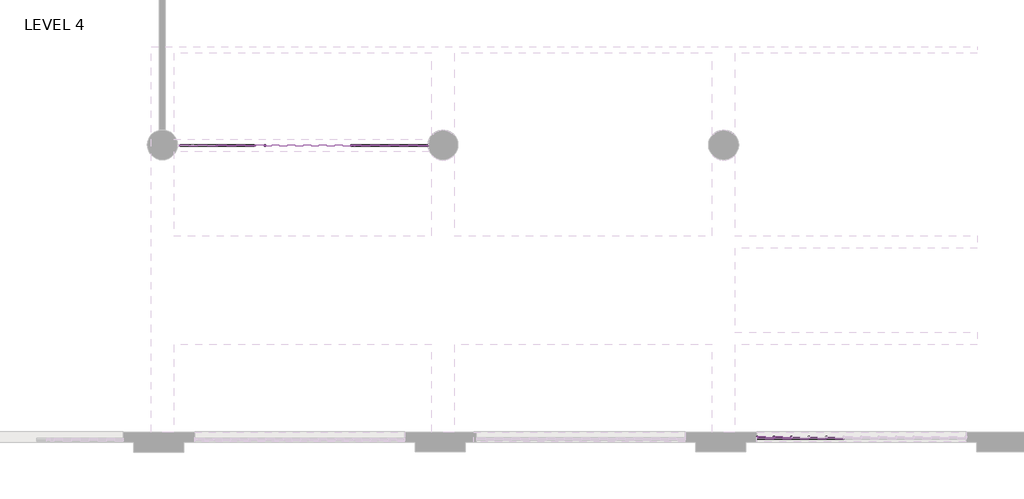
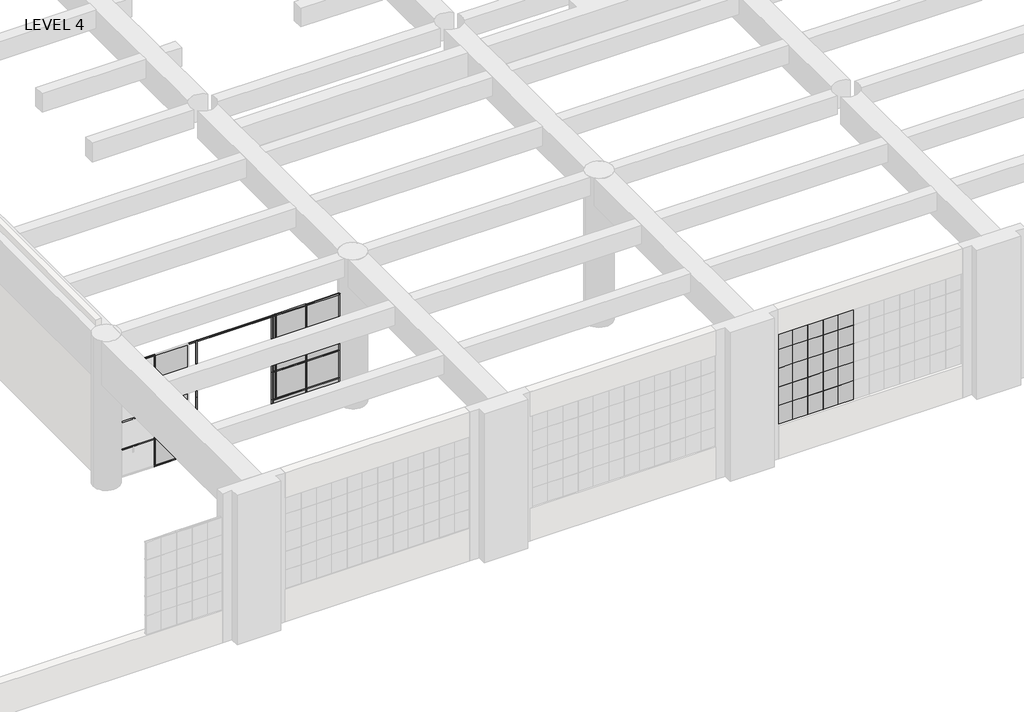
# One storey, part 5 of 26: 84 members, 37 plates.
"""IFC4 building model written with IfcOpenShell, lengths in millimetres."""

from ifc_helpers import new_model, si_unit, origin, place, context, project, spatial, transform, mapped, element, save
from components import member_038dcf1c, member_0e6c94ff, member_d9fec558, member_3d4b608b, member_3c10d71f, member_653bb31e, member_9ec6e97d, member_6e26db71, member_aef483ff, member_88f59781, member_92de3609, member_bade2307, member_118f13bb, member_0a6cf826, member_f7ae4650, member_2f6810a2, member_10d6b71f, member_9f9ec4ec, member_f0929a5d, member_eec7f54c, member_12606fcf, member_898f03bf, member_8f214088, system_panel_glazed_ab35d819, system_panel_glazed_418eb6cd, plate_ccda104d, plate_41dfdbf4, plate_6a2117e0, plate_a1edb61d, plate_c77cbb9d, plate_16e578ed, plate_b3bfc836, plate_fb1597b3, plate_832d6fea, plate_1455caec, plate_0d4e65cb, plate_13b08ee7

model = new_model("IFC4")

# Units and contexts
model_context = context("Model", 3, world=origin())
ifc_project = project(units=[si_unit("LENGTHUNIT", "METRE", prefix="MILLI")], contexts=[model_context])

# Site, building, storey
site = spatial("IfcSite", under=ifc_project)
building = spatial("IfcBuilding", under=site)
storey = spatial("IfcBuildingStorey", under=building, Name="LEVEL 4", Elevation=0.0)

# Members
placement = place(None, origin())
member_shape = member_038dcf1c(model_context)
element("IfcMember", 1, ObjectType="Circular Mullion : 1 1/4\" Square", at=placement, inside=storey, context=model_context, shape_type="MappedRepresentation", body=[
    mapped(member_shape, transform((-30930.5419526, 87323.1590237, 2628.9), x_axis=(-1.0, 0.0, 0.0), y_axis=(0.0, -1.0, 0.0), z_axis=(0.0, 0.0, 1.0))),
])
element("IfcMember", 2, ObjectType="Circular Mullion : 1 1/4\" Square", at=placement, inside=storey, context=model_context, shape_type="MappedRepresentation", body=[
    mapped(member_shape, transform((-30930.5419526, 87323.1590237, 2171.7), x_axis=(-1.0, 0.0, 0.0), y_axis=(0.0, -1.0, 0.0), z_axis=(0.0, 0.0, 1.0))),
])
element("IfcMember", 3, ObjectType="Circular Mullion : 1 1/4\" Square", at=placement, inside=storey, context=model_context, shape_type="MappedRepresentation", body=[
    mapped(member_shape, transform((-30930.5419526, 87323.1590237, 1714.5), x_axis=(-1.0, 0.0, 0.0), y_axis=(0.0, -1.0, 0.0), z_axis=(0.0, 0.0, 1.0))),
])
member_2_shape = member_0e6c94ff(model_context)
element("IfcMember", 4, ObjectType="Circular Mullion : 1 1/4\" Square", at=placement, inside=storey, context=model_context, shape_type="MappedRepresentation", body=[
    mapped(member_2_shape, transform((-30930.5419526, 87323.1590237, 3060.7), x_axis=(-1.0, 0.0, 0.0), y_axis=(0.0, -1.0, 0.0), z_axis=(0.0, 0.0, 1.0))),
])
member_3_shape = member_d9fec558(model_context)
element("IfcMember", 5, ObjectType="Circular Mullion : 1 1/4\" Square", at=placement, inside=storey, context=model_context, shape_type="MappedRepresentation", body=[
    mapped(member_3_shape, transform((-30574.9419523, 87323.1590237, 2628.9), x_axis=(1.0, 0.0, 0.0), y_axis=(0.0, -1.0, 0.0), z_axis=(0.0, 0.0, -1.0))),
])
element("IfcMember", 6, ObjectType="Circular Mullion : 1 1/4\" Square", at=placement, inside=storey, context=model_context, shape_type="MappedRepresentation", body=[
    mapped(member_3_shape, transform((-30219.3419523, 87323.1590237, 2628.9), x_axis=(1.0, 0.0, 0.0), y_axis=(0.0, -1.0, 0.0), z_axis=(0.0, 0.0, -1.0))),
])
element("IfcMember", 7, ObjectType="Circular Mullion : 1 1/4\" Square", at=placement, inside=storey, context=model_context, shape_type="MappedRepresentation", body=[
    mapped(member_3_shape, transform((-29863.7419523, 87323.1590237, 2628.9), x_axis=(1.0, 0.0, 0.0), y_axis=(0.0, -1.0, 0.0), z_axis=(0.0, 0.0, -1.0))),
])
element("IfcMember", 8, ObjectType="Circular Mullion : 1 1/4\" Square", at=placement, inside=storey, context=model_context, shape_type="MappedRepresentation", body=[
    mapped(member_3_shape, transform((-29508.1419523, 87323.1590237, 2628.9), x_axis=(1.0, 0.0, 0.0), y_axis=(0.0, -1.0, 0.0), z_axis=(0.0, 0.0, -1.0))),
])
element("IfcMember", 9, ObjectType="Circular Mullion : 1 1/4\" Square", at=placement, inside=storey, context=model_context, shape_type="MappedRepresentation", body=[
    mapped(member_3_shape, transform((-29152.5419523, 87323.1590237, 2628.9), x_axis=(1.0, 0.0, 0.0), y_axis=(0.0, -1.0, 0.0), z_axis=(0.0, 0.0, -1.0))),
])
member_4_shape = member_3d4b608b(model_context)
element("IfcMember", 10, ObjectType="Circular Mullion : 1 1/4\" Square", at=placement, inside=storey, context=model_context, shape_type="MappedRepresentation", body=[
    mapped(member_4_shape, transform((-30574.9419523, 87323.1590237, 2171.7), x_axis=(1.0, 0.0, 0.0), y_axis=(0.0, -1.0, 0.0), z_axis=(0.0, 0.0, -1.0))),
])
element("IfcMember", 11, ObjectType="Circular Mullion : 1 1/4\" Square", at=placement, inside=storey, context=model_context, shape_type="MappedRepresentation", body=[
    mapped(member_4_shape, transform((-30574.9419523, 87323.1590237, 1714.5), x_axis=(1.0, 0.0, 0.0), y_axis=(0.0, -1.0, 0.0), z_axis=(0.0, 0.0, -1.0))),
])
element("IfcMember", 12, ObjectType="Circular Mullion : 1 1/4\" Square", at=placement, inside=storey, context=model_context, shape_type="MappedRepresentation", body=[
    mapped(member_4_shape, transform((-30574.9419523, 87323.1590237, 1257.3), x_axis=(1.0, 0.0, 0.0), y_axis=(0.0, -1.0, 0.0), z_axis=(0.0, 0.0, -1.0))),
])
element("IfcMember", 13, ObjectType="Circular Mullion : 1 1/4\" Square", at=placement, inside=storey, context=model_context, shape_type="MappedRepresentation", body=[
    mapped(member_4_shape, transform((-30219.3419523, 87323.1590237, 2171.7), x_axis=(1.0, 0.0, 0.0), y_axis=(0.0, -1.0, 0.0), z_axis=(0.0, 0.0, -1.0))),
])
element("IfcMember", 14, ObjectType="Circular Mullion : 1 1/4\" Square", at=placement, inside=storey, context=model_context, shape_type="MappedRepresentation", body=[
    mapped(member_4_shape, transform((-30219.3419523, 87323.1590237, 1714.5), x_axis=(1.0, 0.0, 0.0), y_axis=(0.0, -1.0, 0.0), z_axis=(0.0, 0.0, -1.0))),
])
element("IfcMember", 15, ObjectType="Circular Mullion : 1 1/4\" Square", at=placement, inside=storey, context=model_context, shape_type="MappedRepresentation", body=[
    mapped(member_4_shape, transform((-30219.3419523, 87323.1590237, 1257.3), x_axis=(1.0, 0.0, 0.0), y_axis=(0.0, -1.0, 0.0), z_axis=(0.0, 0.0, -1.0))),
])
element("IfcMember", 16, ObjectType="Circular Mullion : 1 1/4\" Square", at=placement, inside=storey, context=model_context, shape_type="MappedRepresentation", body=[
    mapped(member_4_shape, transform((-29863.7419523, 87323.1590237, 2171.7), x_axis=(1.0, 0.0, 0.0), y_axis=(0.0, -1.0, 0.0), z_axis=(0.0, 0.0, -1.0))),
])
element("IfcMember", 17, ObjectType="Circular Mullion : 1 1/4\" Square", at=placement, inside=storey, context=model_context, shape_type="MappedRepresentation", body=[
    mapped(member_4_shape, transform((-29863.7419523, 87323.1590237, 1714.5), x_axis=(1.0, 0.0, 0.0), y_axis=(0.0, -1.0, 0.0), z_axis=(0.0, 0.0, -1.0))),
])
element("IfcMember", 18, ObjectType="Circular Mullion : 1 1/4\" Square", at=placement, inside=storey, context=model_context, shape_type="MappedRepresentation", body=[
    mapped(member_4_shape, transform((-29863.7419523, 87323.1590237, 1257.3), x_axis=(1.0, 0.0, 0.0), y_axis=(0.0, -1.0, 0.0), z_axis=(0.0, 0.0, -1.0))),
])
element("IfcMember", 19, ObjectType="Circular Mullion : 1 1/4\" Square", at=placement, inside=storey, context=model_context, shape_type="MappedRepresentation", body=[
    mapped(member_4_shape, transform((-29508.1419523, 87323.1590237, 2171.7), x_axis=(1.0, 0.0, 0.0), y_axis=(0.0, -1.0, 0.0), z_axis=(0.0, 0.0, -1.0))),
])
element("IfcMember", 20, ObjectType="Circular Mullion : 1 1/4\" Square", at=placement, inside=storey, context=model_context, shape_type="MappedRepresentation", body=[
    mapped(member_4_shape, transform((-29508.1419523, 87323.1590237, 1714.5), x_axis=(1.0, 0.0, 0.0), y_axis=(0.0, -1.0, 0.0), z_axis=(0.0, 0.0, -1.0))),
])
element("IfcMember", 21, ObjectType="Circular Mullion : 1 1/4\" Square", at=placement, inside=storey, context=model_context, shape_type="MappedRepresentation", body=[
    mapped(member_4_shape, transform((-29508.1419523, 87323.1590237, 1257.3), x_axis=(1.0, 0.0, 0.0), y_axis=(0.0, -1.0, 0.0), z_axis=(0.0, 0.0, -1.0))),
])
element("IfcMember", 22, ObjectType="Circular Mullion : 1 1/4\" Square", at=placement, inside=storey, context=model_context, shape_type="MappedRepresentation", body=[
    mapped(member_4_shape, transform((-29152.5419523, 87323.1590237, 2171.7), x_axis=(1.0, 0.0, 0.0), y_axis=(0.0, -1.0, 0.0), z_axis=(0.0, 0.0, -1.0))),
])
member_5_shape = member_3c10d71f(model_context)
element("IfcMember", 23, ObjectType="Circular Mullion : 1 1/4\" Square", at=placement, inside=storey, context=model_context, shape_type="MappedRepresentation", body=[
    mapped(member_5_shape, transform((-29876.4419523, 87323.1590237, 3060.7), x_axis=(0.0, 0.0, 1.0), y_axis=(0.0, -1.0, 0.0), z_axis=(1.0, 0.0, 0.0))),
])
element("IfcMember", 24, ObjectType="Circular Mullion : 1 1/4\" Square", at=placement, inside=storey, context=model_context, shape_type="MappedRepresentation", body=[
    mapped(member_5_shape, transform((-30232.0419523, 87323.1590237, 3060.7), x_axis=(0.0, 0.0, 1.0), y_axis=(0.0, -1.0, 0.0), z_axis=(1.0, 0.0, 0.0))),
])
element("IfcMember", 25, ObjectType="Circular Mullion : 1 1/4\" Square", at=placement, inside=storey, context=model_context, shape_type="MappedRepresentation", body=[
    mapped(member_5_shape, transform((-29520.8419523, 87323.1590237, 3060.7), x_axis=(0.0, 0.0, 1.0), y_axis=(0.0, -1.0, 0.0), z_axis=(1.0, 0.0, 0.0))),
])
element("IfcMember", 26, ObjectType="Circular Mullion : 1 1/4\" Square", at=placement, inside=storey, context=model_context, shape_type="MappedRepresentation", body=[
    mapped(member_5_shape, transform((-29165.2419523, 87323.1590237, 3060.7), x_axis=(0.0, 0.0, 1.0), y_axis=(0.0, -1.0, 0.0), z_axis=(1.0, 0.0, 0.0))),
])
member_6_shape = member_653bb31e(model_context)
element("IfcMember", 27, ObjectType="Circular Mullion : 1 1/4\" Square", at=placement, inside=storey, context=model_context, shape_type="MappedRepresentation", body=[
    mapped(member_6_shape, transform((-30232.0419523, 87323.1590237, 2628.9), x_axis=(0.0, 0.0, 1.0), y_axis=(0.0, -1.0, 0.0), z_axis=(1.0, 0.0, 0.0))),
])
element("IfcMember", 28, ObjectType="Circular Mullion : 1 1/4\" Square", at=placement, inside=storey, context=model_context, shape_type="MappedRepresentation", body=[
    mapped(member_6_shape, transform((-30232.0419523, 87323.1590237, 2171.7), x_axis=(0.0, 0.0, 1.0), y_axis=(0.0, -1.0, 0.0), z_axis=(1.0, 0.0, 0.0))),
])
element("IfcMember", 29, ObjectType="Circular Mullion : 1 1/4\" Square", at=placement, inside=storey, context=model_context, shape_type="MappedRepresentation", body=[
    mapped(member_6_shape, transform((-30232.0419523, 87323.1590237, 1714.5), x_axis=(0.0, 0.0, 1.0), y_axis=(0.0, -1.0, 0.0), z_axis=(1.0, 0.0, 0.0))),
])
element("IfcMember", 30, ObjectType="Circular Mullion : 1 1/4\" Square", at=placement, inside=storey, context=model_context, shape_type="MappedRepresentation", body=[
    mapped(member_6_shape, transform((-30232.0419523, 87323.1590237, 1257.3), x_axis=(0.0, 0.0, 1.0), y_axis=(0.0, -1.0, 0.0), z_axis=(1.0, 0.0, 0.0))),
])
member_7_shape = member_9ec6e97d(model_context)
element("IfcMember", 31, ObjectType="Circular Mullion : 1 1/4\" Square", at=placement, inside=storey, context=model_context, shape_type="MappedRepresentation", body=[
    mapped(member_7_shape, transform((-30587.6419523, 87323.1590237, 3060.7), x_axis=(0.0, 0.0, 1.0), y_axis=(0.0, -1.0, 0.0), z_axis=(1.0, 0.0, 0.0))),
])
member_8_shape = member_6e26db71(model_context)
element("IfcMember", 32, ObjectType="Circular Mullion : 1 1/4\" Square", at=placement, inside=storey, context=model_context, shape_type="MappedRepresentation", body=[
    mapped(member_8_shape, transform((-30587.6419523, 87323.1590237, 2628.9), x_axis=(0.0, 0.0, 1.0), y_axis=(0.0, -1.0, 0.0), z_axis=(1.0, 0.0, 0.0))),
])
element("IfcMember", 33, ObjectType="Circular Mullion : 1 1/4\" Square", at=placement, inside=storey, context=model_context, shape_type="MappedRepresentation", body=[
    mapped(member_8_shape, transform((-30587.6419523, 87323.1590237, 2171.7), x_axis=(0.0, 0.0, 1.0), y_axis=(0.0, -1.0, 0.0), z_axis=(1.0, 0.0, 0.0))),
])
element("IfcMember", 34, ObjectType="Circular Mullion : 1 1/4\" Square", at=placement, inside=storey, context=model_context, shape_type="MappedRepresentation", body=[
    mapped(member_8_shape, transform((-30587.6419523, 87323.1590237, 1714.5), x_axis=(0.0, 0.0, 1.0), y_axis=(0.0, -1.0, 0.0), z_axis=(1.0, 0.0, 0.0))),
])
element("IfcMember", 35, ObjectType="Circular Mullion : 1 1/4\" Square", at=placement, inside=storey, context=model_context, shape_type="MappedRepresentation", body=[
    mapped(member_8_shape, transform((-30587.6419523, 87323.1590237, 1257.3), x_axis=(0.0, 0.0, 1.0), y_axis=(0.0, -1.0, 0.0), z_axis=(1.0, 0.0, 0.0))),
])
member_9_shape = member_aef483ff(model_context)
element("IfcMember", 36, ObjectType="Circular Mullion : 1 1/4\" Square", at=placement, inside=storey, context=model_context, shape_type="MappedRepresentation", body=[
    mapped(member_9_shape, transform((-39111.7307806, 93262.0914396, 2041.3401593), x_axis=(1.0, 0.0, 0.0), y_axis=(0.0, -1.0, 0.0), z_axis=(0.0, 0.0, -1.0))),
])
element("IfcMember", 37, ObjectType="Circular Mullion : 1 1/4\" Square", at=placement, inside=storey, context=model_context, shape_type="MappedRepresentation", body=[
    mapped(member_9_shape, transform((-40940.5061259, 93262.0914396, 2041.3401593), x_axis=(1.0, 0.0, 0.0), y_axis=(0.0, -1.0, 0.0), z_axis=(0.0, 0.0, -1.0))),
])
member_10_shape = member_88f59781(model_context)
element("IfcMember", 38, ObjectType="Circular Mullion : 1 1/4\" Square", at=placement, inside=storey, context=model_context, shape_type="MappedRepresentation", body=[
    mapped(member_10_shape, transform((-37620.2745306, 93262.0914396, 2041.3401593), x_axis=(1.0, 0.0, 0.0), y_axis=(0.0, -1.0, 0.0), z_axis=(0.0, 0.0, -1.0))),
])
member_11_shape = member_92de3609(model_context)
element("IfcMember", 39, ObjectType="Circular Mullion : 1 1/4\" Square", at=placement, inside=storey, context=model_context, shape_type="MappedRepresentation", body=[
    mapped(member_11_shape, transform((-39111.7307806, 93262.0914396, 1354.5108872), x_axis=(1.0, 0.0, 0.0), y_axis=(0.0, -1.0, 0.0), z_axis=(0.0, 0.0, -1.0))),
])
element("IfcMember", 40, ObjectType="Circular Mullion : 1 1/4\" Square", at=placement, inside=storey, context=model_context, shape_type="MappedRepresentation", body=[
    mapped(member_11_shape, transform((-40940.5061259, 93262.0914396, 1354.5108872), x_axis=(1.0, 0.0, 0.0), y_axis=(0.0, -1.0, 0.0), z_axis=(0.0, 0.0, -1.0))),
])
member_12_shape = member_bade2307(model_context)
element("IfcMember", 41, ObjectType="Circular Mullion : 1 1/4\" Square", at=placement, inside=storey, context=model_context, shape_type="MappedRepresentation", body=[
    mapped(member_12_shape, transform((-37620.2745306, 93262.0914396, 1354.5108872), x_axis=(1.0, 0.0, 0.0), y_axis=(0.0, -1.0, 0.0), z_axis=(0.0, 0.0, -1.0))),
])
member_13_shape = member_118f13bb(model_context)
element("IfcMember", 42, ObjectType="Circular Mullion : 1 1/4\" Square", at=placement, inside=storey, context=model_context, shape_type="MappedRepresentation", body=[
    mapped(member_13_shape, transform((-39111.7307806, 93262.0914396, 676.4411435), x_axis=(1.0, 0.0, 0.0), y_axis=(0.0, -1.0, 0.0), z_axis=(0.0, 0.0, -1.0))),
])
element("IfcMember", 43, ObjectType="Circular Mullion : 1 1/4\" Square", at=placement, inside=storey, context=model_context, shape_type="MappedRepresentation", body=[
    mapped(member_13_shape, transform((-40940.5061259, 93262.0914396, 676.4411435), x_axis=(1.0, 0.0, 0.0), y_axis=(0.0, -1.0, 0.0), z_axis=(0.0, 0.0, -1.0))),
])
member_14_shape = member_0a6cf826(model_context)
element("IfcMember", 44, ObjectType="Circular Mullion : 1 1/4\" Square", at=placement, inside=storey, context=model_context, shape_type="MappedRepresentation", body=[
    mapped(member_14_shape, transform((-37620.2745306, 93262.0914396, 676.4411435), x_axis=(1.0, 0.0, 0.0), y_axis=(0.0, -1.0, 0.0), z_axis=(0.0, 0.0, -1.0))),
])
element("IfcMember", 45, ObjectType="Circular Mullion : 1 1/4\" Square", at=placement, inside=storey, context=model_context, shape_type="MappedRepresentation", body=[
    mapped(member_9_shape, transform((-39185.5495306, 93262.0914396, 2041.3401593), x_axis=(1.0, 0.0, 0.0), y_axis=(0.0, -1.0, 0.0), z_axis=(0.0, 0.0, -1.0))),
])
element("IfcMember", 46, ObjectType="Circular Mullion : 1 1/4\" Square", at=placement, inside=storey, context=model_context, shape_type="MappedRepresentation", body=[
    mapped(member_9_shape, transform((-38407.6745306, 93262.0914396, 2041.3401593), x_axis=(1.0, 0.0, 0.0), y_axis=(0.0, -1.0, 0.0), z_axis=(0.0, 0.0, -1.0))),
])
element("IfcMember", 47, ObjectType="Circular Mullion : 1 1/4\" Square", at=placement, inside=storey, context=model_context, shape_type="MappedRepresentation", body=[
    mapped(member_9_shape, transform((-41919.2245306, 93262.0914396, 2041.3401593), x_axis=(1.0, 0.0, 0.0), y_axis=(0.0, -1.0, 0.0), z_axis=(0.0, 0.0, -1.0))),
])
element("IfcMember", 48, ObjectType="Circular Mullion : 1 1/4\" Square", at=placement, inside=storey, context=model_context, shape_type="MappedRepresentation", body=[
    mapped(member_10_shape, transform((-37620.2745306, 93262.0914396, 2041.3401593), x_axis=(1.0, 0.0, 0.0), y_axis=(0.0, -1.0, 0.0), z_axis=(0.0, 0.0, -1.0))),
])
element("IfcMember", 49, ObjectType="Circular Mullion : 1 1/4\" Square", at=placement, inside=storey, context=model_context, shape_type="MappedRepresentation", body=[
    mapped(member_11_shape, transform((-39185.5495306, 93262.0914396, 1354.5108872), x_axis=(1.0, 0.0, 0.0), y_axis=(0.0, -1.0, 0.0), z_axis=(0.0, 0.0, -1.0))),
])
element("IfcMember", 50, ObjectType="Circular Mullion : 1 1/4\" Square", at=placement, inside=storey, context=model_context, shape_type="MappedRepresentation", body=[
    mapped(member_11_shape, transform((-38407.6745306, 93262.0914396, 1354.5108872), x_axis=(1.0, 0.0, 0.0), y_axis=(0.0, -1.0, 0.0), z_axis=(0.0, 0.0, -1.0))),
])
element("IfcMember", 51, ObjectType="Circular Mullion : 1 1/4\" Square", at=placement, inside=storey, context=model_context, shape_type="MappedRepresentation", body=[
    mapped(member_11_shape, transform((-41919.2245306, 93262.0914396, 1354.5108872), x_axis=(1.0, 0.0, 0.0), y_axis=(0.0, -1.0, 0.0), z_axis=(0.0, 0.0, -1.0))),
])
element("IfcMember", 52, ObjectType="Circular Mullion : 1 1/4\" Square", at=placement, inside=storey, context=model_context, shape_type="MappedRepresentation", body=[
    mapped(member_12_shape, transform((-37620.2745306, 93262.0914396, 1354.5108872), x_axis=(1.0, 0.0, 0.0), y_axis=(0.0, -1.0, 0.0), z_axis=(0.0, 0.0, -1.0))),
])
member_15_shape = member_f7ae4650(model_context)
element("IfcMember", 53, ObjectType="Circular Mullion : 1 1/4\" Square", at=placement, inside=storey, context=model_context, shape_type="MappedRepresentation", body=[
    mapped(member_15_shape, transform((-39185.5495306, 93262.0914396, 0.0), x_axis=(1.0, 0.0, 0.0), y_axis=(0.0, -1.0, 0.0), z_axis=(0.0, 0.0, -1.0))),
])
element("IfcMember", 54, ObjectType="Circular Mullion : 1 1/4\" Square", at=placement, inside=storey, context=model_context, shape_type="MappedRepresentation", body=[
    mapped(member_15_shape, transform((-38407.6745306, 93262.0914396, 0.0), x_axis=(1.0, 0.0, 0.0), y_axis=(0.0, -1.0, 0.0), z_axis=(0.0, 0.0, -1.0))),
])
element("IfcMember", 55, ObjectType="Circular Mullion : 1 1/4\" Square", at=placement, inside=storey, context=model_context, shape_type="MappedRepresentation", body=[
    mapped(member_15_shape, transform((-41919.2245306, 93262.0914396, 0.0), x_axis=(1.0, 0.0, 0.0), y_axis=(0.0, -1.0, 0.0), z_axis=(0.0, 0.0, -1.0))),
])
element("IfcMember", 56, ObjectType="Circular Mullion : 1 1/4\" Square", at=placement, inside=storey, context=model_context, shape_type="MappedRepresentation", body=[
    mapped(member_13_shape, transform((-39185.5495306, 93262.0914396, 676.4411435), x_axis=(1.0, 0.0, 0.0), y_axis=(0.0, -1.0, 0.0), z_axis=(0.0, 0.0, -1.0))),
])
element("IfcMember", 57, ObjectType="Circular Mullion : 1 1/4\" Square", at=placement, inside=storey, context=model_context, shape_type="MappedRepresentation", body=[
    mapped(member_13_shape, transform((-38407.6745306, 93262.0914396, 676.4411435), x_axis=(1.0, 0.0, 0.0), y_axis=(0.0, -1.0, 0.0), z_axis=(0.0, 0.0, -1.0))),
])
element("IfcMember", 58, ObjectType="Circular Mullion : 1 1/4\" Square", at=placement, inside=storey, context=model_context, shape_type="MappedRepresentation", body=[
    mapped(member_13_shape, transform((-41919.2245306, 93262.0914396, 676.4411435), x_axis=(1.0, 0.0, 0.0), y_axis=(0.0, -1.0, 0.0), z_axis=(0.0, 0.0, -1.0))),
])
member_16_shape = member_2f6810a2(model_context)
element("IfcMember", 59, ObjectType="Circular Mullion : 1 1/4\" Square", at=placement, inside=storey, context=model_context, shape_type="MappedRepresentation", body=[
    mapped(member_16_shape, transform((-37620.2745306, 93262.0914396, 0.0), x_axis=(1.0, 0.0, 0.0), y_axis=(0.0, -1.0, 0.0), z_axis=(0.0, 0.0, -1.0))),
])
element("IfcMember", 60, ObjectType="Circular Mullion : 1 1/4\" Square", at=placement, inside=storey, context=model_context, shape_type="MappedRepresentation", body=[
    mapped(member_14_shape, transform((-37620.2745306, 93262.0914396, 676.4411435), x_axis=(1.0, 0.0, 0.0), y_axis=(0.0, -1.0, 0.0), z_axis=(0.0, 0.0, -1.0))),
])
element("IfcMember", 61, ObjectType="Circular Mullion : 1 1/4\" Square", at=placement, inside=storey, context=model_context, shape_type="MappedRepresentation", body=[
    mapped(member_4_shape, transform((-30574.9419523, 87323.1590237, 800.1), x_axis=(1.0, 0.0, 0.0), y_axis=(0.0, -1.0, 0.0), z_axis=(0.0, 0.0, -1.0))),
])
element("IfcMember", 62, ObjectType="Circular Mullion : 1 1/4\" Square", at=placement, inside=storey, context=model_context, shape_type="MappedRepresentation", body=[
    mapped(member_4_shape, transform((-30219.3419523, 87323.1590237, 800.1), x_axis=(1.0, 0.0, 0.0), y_axis=(0.0, -1.0, 0.0), z_axis=(0.0, 0.0, -1.0))),
])
element("IfcMember", 63, ObjectType="Circular Mullion : 1 1/4\" Square", at=placement, inside=storey, context=model_context, shape_type="MappedRepresentation", body=[
    mapped(member_4_shape, transform((-29863.7419523, 87323.1590237, 800.1), x_axis=(1.0, 0.0, 0.0), y_axis=(0.0, -1.0, 0.0), z_axis=(0.0, 0.0, -1.0))),
])
element("IfcMember", 64, ObjectType="Circular Mullion : 1 1/4\" Square", at=placement, inside=storey, context=model_context, shape_type="MappedRepresentation", body=[
    mapped(member_4_shape, transform((-29508.1419523, 87323.1590237, 800.1), x_axis=(1.0, 0.0, 0.0), y_axis=(0.0, -1.0, 0.0), z_axis=(0.0, 0.0, -1.0))),
])
element("IfcMember", 65, ObjectType="Circular Mullion : 1 1/4\" Square", at=placement, inside=storey, context=model_context, shape_type="MappedRepresentation", body=[
    mapped(member_shape, transform((-30930.5419526, 87323.1590237, 1257.3), x_axis=(-1.0, 0.0, 0.0), y_axis=(0.0, -1.0, 0.0), z_axis=(0.0, 0.0, 1.0))),
])
member_17_shape = member_10d6b71f(model_context)
element("IfcMember", 66, ObjectType="Circular Mullion : 1 1/4\" Square", at=placement, inside=storey, context=model_context, shape_type="MappedRepresentation", body=[
    mapped(member_17_shape, transform((-39198.2495306, 93262.0914396, 2743.2), x_axis=(0.0, 0.0, 1.0), y_axis=(0.0, -1.0, 0.0), z_axis=(1.0, 0.0, 0.0))),
])
member_18_shape = member_9f9ec4ec(model_context)
element("IfcMember", 67, ObjectType="Circular Mullion : 1 1/4\" Square", at=placement, inside=storey, context=model_context, shape_type="MappedRepresentation", body=[
    mapped(member_18_shape, transform((-38394.9745306, 93262.0914396, 0.0), x_axis=(0.0, 0.0, -1.0), y_axis=(0.0, -1.0, 0.0), z_axis=(-1.0, 0.0, 0.0))),
])
element("IfcMember", 68, ObjectType="Circular Mullion : 1 1/4\" Square", at=placement, inside=storey, context=model_context, shape_type="MappedRepresentation", body=[
    mapped(member_18_shape, transform((-37645.6745306, 93262.0914396, 2743.2), x_axis=(0.0, 0.0, 1.0), y_axis=(0.0, -1.0, 0.0), z_axis=(1.0, 0.0, 0.0))),
])
element("IfcMember", 69, ObjectType="Circular Mullion : 1 1/4\" Square", at=placement, inside=storey, context=model_context, shape_type="MappedRepresentation", body=[
    mapped(member_18_shape, transform((-41931.9245306, 93262.0914396, 2743.2), x_axis=(0.0, 0.0, 1.0), y_axis=(0.0, -1.0, 0.0), z_axis=(1.0, 0.0, 0.0))),
])
member_19_shape = member_f0929a5d(model_context)
element("IfcMember", 70, ObjectType="Circular Mullion : 1 1/4\" Square", at=placement, inside=storey, context=model_context, shape_type="MappedRepresentation", body=[
    mapped(member_19_shape, transform((-41906.5245306, 93262.0914396, 0.0), x_axis=(0.0, 0.0, -1.0), y_axis=(0.0, -1.0, 0.0), z_axis=(-1.0, 0.0, 0.0))),
])
member_20_shape = member_eec7f54c(model_context)
element("IfcMember", 71, ObjectType="Circular Mullion : 1 1/4\" Square", at=placement, inside=storey, context=model_context, shape_type="MappedRepresentation", body=[
    mapped(member_20_shape, transform((-41154.2259089, 93262.0914396, 2041.3401593), x_axis=(0.0, 0.0, 1.0), y_axis=(0.0, -1.0, 0.0), z_axis=(1.0, 0.0, 0.0))),
])
element("IfcMember", 72, ObjectType="Circular Mullion : 1 1/4\" Square", at=placement, inside=storey, context=model_context, shape_type="MappedRepresentation", body=[
    mapped(member_20_shape, transform((-41154.2259089, 93262.0914396, 1354.5108872), x_axis=(0.0, 0.0, 1.0), y_axis=(0.0, -1.0, 0.0), z_axis=(1.0, 0.0, 0.0))),
])
element("IfcMember", 73, ObjectType="Circular Mullion : 1 1/4\" Square", at=placement, inside=storey, context=model_context, shape_type="MappedRepresentation", body=[
    mapped(member_20_shape, transform((-41154.2259089, 93262.0914396, 676.4411435), x_axis=(0.0, 0.0, 1.0), y_axis=(0.0, -1.0, 0.0), z_axis=(1.0, 0.0, 0.0))),
])
member_21_shape = member_12606fcf(model_context)
element("IfcMember", 74, ObjectType="Circular Mullion : 1 1/4\" Square", at=placement, inside=storey, context=model_context, shape_type="MappedRepresentation", body=[
    mapped(member_21_shape, transform((-37645.6745306, 93262.0914396, 2041.3401593), x_axis=(0.0, 0.0, 1.0), y_axis=(0.0, -1.0, 0.0), z_axis=(1.0, 0.0, 0.0))),
])
element("IfcMember", 75, ObjectType="Circular Mullion : 1 1/4\" Square", at=placement, inside=storey, context=model_context, shape_type="MappedRepresentation", body=[
    mapped(member_21_shape, transform((-41931.9245306, 93262.0914396, 2041.3401593), x_axis=(0.0, 0.0, 1.0), y_axis=(0.0, -1.0, 0.0), z_axis=(1.0, 0.0, 0.0))),
])
element("IfcMember", 76, ObjectType="Circular Mullion : 1 1/4\" Square", at=placement, inside=storey, context=model_context, shape_type="MappedRepresentation", body=[
    mapped(member_21_shape, transform((-37645.6745306, 93262.0914396, 1354.5108872), x_axis=(0.0, 0.0, 1.0), y_axis=(0.0, -1.0, 0.0), z_axis=(1.0, 0.0, 0.0))),
])
element("IfcMember", 77, ObjectType="Circular Mullion : 1 1/4\" Square", at=placement, inside=storey, context=model_context, shape_type="MappedRepresentation", body=[
    mapped(member_21_shape, transform((-41931.9245306, 93262.0914396, 1354.5108872), x_axis=(0.0, 0.0, 1.0), y_axis=(0.0, -1.0, 0.0), z_axis=(1.0, 0.0, 0.0))),
])
element("IfcMember", 78, ObjectType="Circular Mullion : 1 1/4\" Square", at=placement, inside=storey, context=model_context, shape_type="MappedRepresentation", body=[
    mapped(member_21_shape, transform((-37645.6745306, 93262.0914396, 676.4411435), x_axis=(0.0, 0.0, 1.0), y_axis=(0.0, -1.0, 0.0), z_axis=(1.0, 0.0, 0.0))),
])
element("IfcMember", 79, ObjectType="Circular Mullion : 1 1/4\" Square", at=placement, inside=storey, context=model_context, shape_type="MappedRepresentation", body=[
    mapped(member_21_shape, transform((-41931.9245306, 93262.0914396, 676.4411435), x_axis=(0.0, 0.0, 1.0), y_axis=(0.0, -1.0, 0.0), z_axis=(1.0, 0.0, 0.0))),
])
member_22_shape = member_898f03bf(model_context)
element("IfcMember", 80, ObjectType="Circular Mullion : 1 1/4\" Square", at=placement, inside=storey, context=model_context, shape_type="MappedRepresentation", body=[
    mapped(member_22_shape, transform((-39172.8495306, 93262.0914396, 0.0), x_axis=(0.0, 0.0, -1.0), y_axis=(0.0, -1.0, 0.0), z_axis=(-1.0, 0.0, 0.0))),
])
element("IfcMember", 81, ObjectType="Circular Mullion : 1 1/4\" Square", at=placement, inside=storey, context=model_context, shape_type="MappedRepresentation", body=[
    mapped(member_22_shape, transform((-38420.3745306, 93262.0914396, 2743.2), x_axis=(0.0, 0.0, 1.0), y_axis=(0.0, -1.0, 0.0), z_axis=(1.0, 0.0, 0.0))),
])
member_23_shape = member_8f214088(model_context)
element("IfcMember", 82, ObjectType="Circular Mullion : 1 1/4\" Square", at=placement, inside=storey, context=model_context, shape_type="MappedRepresentation", body=[
    mapped(member_23_shape, transform((-38420.3745306, 93262.0914396, 2041.3401593), x_axis=(0.0, 0.0, 1.0), y_axis=(0.0, -1.0, 0.0), z_axis=(1.0, 0.0, 0.0))),
])
element("IfcMember", 83, ObjectType="Circular Mullion : 1 1/4\" Square", at=placement, inside=storey, context=model_context, shape_type="MappedRepresentation", body=[
    mapped(member_23_shape, transform((-38420.3745306, 93262.0914396, 1354.5108872), x_axis=(0.0, 0.0, 1.0), y_axis=(0.0, -1.0, 0.0), z_axis=(1.0, 0.0, 0.0))),
])
element("IfcMember", 84, ObjectType="Circular Mullion : 1 1/4\" Square", at=placement, inside=storey, context=model_context, shape_type="MappedRepresentation", body=[
    mapped(member_23_shape, transform((-38420.3745306, 93262.0914396, 676.4411435), x_axis=(0.0, 0.0, 1.0), y_axis=(0.0, -1.0, 0.0), z_axis=(1.0, 0.0, 0.0))),
])

# Plates
system_panel_glazed_shape = system_panel_glazed_ab35d819(model_context)
element("IfcPlate", 85, ObjectType="System Panel : Glazed", at=placement, inside=storey, context=model_context, shape_type="MappedRepresentation", body=[
    mapped(system_panel_glazed_shape, transform((-30752.7419525, 87323.1590237, 800.1), x_axis=(1.0, 0.0, 0.0), y_axis=(0.0, 1.0, 0.0), z_axis=(0.0, 0.0, 1.0))),
])
element("IfcPlate", 86, ObjectType="System Panel : Glazed", at=placement, inside=storey, context=model_context, shape_type="MappedRepresentation", body=[
    mapped(system_panel_glazed_shape, transform((-29330.3419523, 87323.1590237, 800.1), x_axis=(1.0, 0.0, 0.0), y_axis=(0.0, 1.0, 0.0), z_axis=(0.0, 0.0, 1.0))),
])
element("IfcPlate", 87, ObjectType="System Panel : Glazed", at=placement, inside=storey, context=model_context, shape_type="MappedRepresentation", body=[
    mapped(system_panel_glazed_shape, transform((-30752.7419525, 87323.1590237, 1257.3), x_axis=(1.0, 0.0, 0.0), y_axis=(0.0, 1.0, 0.0), z_axis=(0.0, 0.0, 1.0))),
])
element("IfcPlate", 88, ObjectType="System Panel : Glazed", at=placement, inside=storey, context=model_context, shape_type="MappedRepresentation", body=[
    mapped(system_panel_glazed_shape, transform((-29330.3419523, 87323.1590237, 1257.3), x_axis=(1.0, 0.0, 0.0), y_axis=(0.0, 1.0, 0.0), z_axis=(0.0, 0.0, 1.0))),
])
element("IfcPlate", 89, ObjectType="System Panel : Glazed", at=placement, inside=storey, context=model_context, shape_type="MappedRepresentation", body=[
    mapped(system_panel_glazed_shape, transform((-30752.7419525, 87323.1590237, 1714.5), x_axis=(1.0, 0.0, 0.0), y_axis=(0.0, 1.0, 0.0), z_axis=(0.0, 0.0, 1.0))),
])
element("IfcPlate", 90, ObjectType="System Panel : Glazed", at=placement, inside=storey, context=model_context, shape_type="MappedRepresentation", body=[
    mapped(system_panel_glazed_shape, transform((-29330.3419523, 87323.1590237, 1714.5), x_axis=(1.0, 0.0, 0.0), y_axis=(0.0, 1.0, 0.0), z_axis=(0.0, 0.0, 1.0))),
])
element("IfcPlate", 91, ObjectType="System Panel : Glazed", at=placement, inside=storey, context=model_context, shape_type="MappedRepresentation", body=[
    mapped(system_panel_glazed_shape, transform((-30752.7419525, 87323.1590237, 2171.7), x_axis=(1.0, 0.0, 0.0), y_axis=(0.0, 1.0, 0.0), z_axis=(0.0, 0.0, 1.0))),
])
element("IfcPlate", 92, ObjectType="System Panel : Glazed", at=placement, inside=storey, context=model_context, shape_type="MappedRepresentation", body=[
    mapped(system_panel_glazed_shape, transform((-29330.3419523, 87323.1590237, 2171.7), x_axis=(1.0, 0.0, 0.0), y_axis=(0.0, 1.0, 0.0), z_axis=(0.0, 0.0, 1.0))),
])
element("IfcPlate", 93, ObjectType="System Panel : Glazed", at=placement, inside=storey, context=model_context, shape_type="MappedRepresentation", body=[
    mapped(system_panel_glazed_shape, transform((-30397.1419523, 87323.1590237, 800.1), x_axis=(1.0, 0.0, 0.0), y_axis=(0.0, 1.0, 0.0), z_axis=(0.0, 0.0, 1.0))),
])
element("IfcPlate", 94, ObjectType="System Panel : Glazed", at=placement, inside=storey, context=model_context, shape_type="MappedRepresentation", body=[
    mapped(system_panel_glazed_shape, transform((-30397.1419523, 87323.1590237, 1257.3), x_axis=(1.0, 0.0, 0.0), y_axis=(0.0, 1.0, 0.0), z_axis=(0.0, 0.0, 1.0))),
])
element("IfcPlate", 95, ObjectType="System Panel : Glazed", at=placement, inside=storey, context=model_context, shape_type="MappedRepresentation", body=[
    mapped(system_panel_glazed_shape, transform((-30397.1419523, 87323.1590237, 1714.5), x_axis=(1.0, 0.0, 0.0), y_axis=(0.0, 1.0, 0.0), z_axis=(0.0, 0.0, 1.0))),
])
element("IfcPlate", 96, ObjectType="System Panel : Glazed", at=placement, inside=storey, context=model_context, shape_type="MappedRepresentation", body=[
    mapped(system_panel_glazed_shape, transform((-30397.1419523, 87323.1590237, 2171.7), x_axis=(1.0, 0.0, 0.0), y_axis=(0.0, 1.0, 0.0), z_axis=(0.0, 0.0, 1.0))),
])
element("IfcPlate", 97, ObjectType="System Panel : Glazed", at=placement, inside=storey, context=model_context, shape_type="MappedRepresentation", body=[
    mapped(system_panel_glazed_shape, transform((-30041.5419523, 87323.1590237, 800.1), x_axis=(1.0, 0.0, 0.0), y_axis=(0.0, 1.0, 0.0), z_axis=(0.0, 0.0, 1.0))),
])
element("IfcPlate", 98, ObjectType="System Panel : Glazed", at=placement, inside=storey, context=model_context, shape_type="MappedRepresentation", body=[
    mapped(system_panel_glazed_shape, transform((-30041.5419523, 87323.1590237, 1257.3), x_axis=(1.0, 0.0, 0.0), y_axis=(0.0, 1.0, 0.0), z_axis=(0.0, 0.0, 1.0))),
])
element("IfcPlate", 99, ObjectType="System Panel : Glazed", at=placement, inside=storey, context=model_context, shape_type="MappedRepresentation", body=[
    mapped(system_panel_glazed_shape, transform((-30041.5419523, 87323.1590237, 1714.5), x_axis=(1.0, 0.0, 0.0), y_axis=(0.0, 1.0, 0.0), z_axis=(0.0, 0.0, 1.0))),
])
element("IfcPlate", 100, ObjectType="System Panel : Glazed", at=placement, inside=storey, context=model_context, shape_type="MappedRepresentation", body=[
    mapped(system_panel_glazed_shape, transform((-30041.5419523, 87323.1590237, 2171.7), x_axis=(1.0, 0.0, 0.0), y_axis=(0.0, 1.0, 0.0), z_axis=(0.0, 0.0, 1.0))),
])
element("IfcPlate", 101, ObjectType="System Panel : Glazed", at=placement, inside=storey, context=model_context, shape_type="MappedRepresentation", body=[
    mapped(system_panel_glazed_shape, transform((-29685.9419523, 87323.1590237, 800.1), x_axis=(1.0, 0.0, 0.0), y_axis=(0.0, 1.0, 0.0), z_axis=(0.0, 0.0, 1.0))),
])
element("IfcPlate", 102, ObjectType="System Panel : Glazed", at=placement, inside=storey, context=model_context, shape_type="MappedRepresentation", body=[
    mapped(system_panel_glazed_shape, transform((-29685.9419523, 87323.1590237, 1257.3), x_axis=(1.0, 0.0, 0.0), y_axis=(0.0, 1.0, 0.0), z_axis=(0.0, 0.0, 1.0))),
])
element("IfcPlate", 103, ObjectType="System Panel : Glazed", at=placement, inside=storey, context=model_context, shape_type="MappedRepresentation", body=[
    mapped(system_panel_glazed_shape, transform((-29685.9419523, 87323.1590237, 1714.5), x_axis=(1.0, 0.0, 0.0), y_axis=(0.0, 1.0, 0.0), z_axis=(0.0, 0.0, 1.0))),
])
element("IfcPlate", 104, ObjectType="System Panel : Glazed", at=placement, inside=storey, context=model_context, shape_type="MappedRepresentation", body=[
    mapped(system_panel_glazed_shape, transform((-29685.9419523, 87323.1590237, 2171.7), x_axis=(1.0, 0.0, 0.0), y_axis=(0.0, 1.0, 0.0), z_axis=(0.0, 0.0, 1.0))),
])
system_panel_glazed_2_shape = system_panel_glazed_418eb6cd(model_context)
element("IfcPlate", 105, ObjectType="System Panel : Glazed", at=placement, inside=storey, context=model_context, shape_type="MappedRepresentation", body=[
    mapped(system_panel_glazed_2_shape, transform((-30752.7419525, 87323.1590237, 2628.9), x_axis=(1.0, 0.0, 0.0), y_axis=(0.0, 1.0, 0.0), z_axis=(0.0, 0.0, 1.0))),
])
element("IfcPlate", 106, ObjectType="System Panel : Glazed", at=placement, inside=storey, context=model_context, shape_type="MappedRepresentation", body=[
    mapped(system_panel_glazed_2_shape, transform((-29330.3419523, 87323.1590237, 2628.9), x_axis=(1.0, 0.0, 0.0), y_axis=(0.0, 1.0, 0.0), z_axis=(0.0, 0.0, 1.0))),
])
element("IfcPlate", 107, ObjectType="System Panel : Glazed", at=placement, inside=storey, context=model_context, shape_type="MappedRepresentation", body=[
    mapped(system_panel_glazed_2_shape, transform((-30397.1419523, 87323.1590237, 2628.9), x_axis=(1.0, 0.0, 0.0), y_axis=(0.0, 1.0, 0.0), z_axis=(0.0, 0.0, 1.0))),
])
element("IfcPlate", 108, ObjectType="System Panel : Glazed", at=placement, inside=storey, context=model_context, shape_type="MappedRepresentation", body=[
    mapped(system_panel_glazed_2_shape, transform((-30041.5419523, 87323.1590237, 2628.9), x_axis=(1.0, 0.0, 0.0), y_axis=(0.0, 1.0, 0.0), z_axis=(0.0, 0.0, 1.0))),
])
element("IfcPlate", 109, ObjectType="System Panel : Glazed", at=placement, inside=storey, context=model_context, shape_type="MappedRepresentation", body=[
    mapped(system_panel_glazed_2_shape, transform((-29685.9419523, 87323.1590237, 2628.9), x_axis=(1.0, 0.0, 0.0), y_axis=(0.0, 1.0, 0.0), z_axis=(0.0, 0.0, 1.0))),
])
plate_shape = plate_ccda104d(model_context)
element("IfcPlate", 110, ObjectType="System Panel : Interior - Glazing 1/4\" Thick", at=placement, inside=storey, context=model_context, shape_type="MappedRepresentation", body=[
    mapped(plate_shape, transform((-38020.3245306, 93262.0914396, 25.4), x_axis=(1.0, 0.0, 0.0), y_axis=(0.0, 1.0, 0.0), z_axis=(0.0, 0.0, 1.0))),
])
plate_2_shape = plate_41dfdbf4(model_context)
element("IfcPlate", 111, ObjectType="System Panel : Interior - Glazing 1/4\" Thick", at=placement, inside=storey, context=model_context, shape_type="MappedRepresentation", body=[
    mapped(plate_2_shape, transform((-38020.3245306, 93262.0914396, 1367.2108872), x_axis=(1.0, 0.0, 0.0), y_axis=(0.0, 1.0, 0.0), z_axis=(0.0, 0.0, 1.0))),
])
plate_3_shape = plate_6a2117e0(model_context)
element("IfcPlate", 112, ObjectType="System Panel : Interior - Glazing 1/4\" Thick", at=placement, inside=storey, context=model_context, shape_type="MappedRepresentation", body=[
    mapped(plate_3_shape, transform((-38020.3245306, 93262.0914396, 2054.0401593), x_axis=(1.0, 0.0, 0.0), y_axis=(0.0, 1.0, 0.0), z_axis=(0.0, 0.0, 1.0))),
])
plate_4_shape = plate_a1edb61d(model_context)
element("IfcPlate", 113, ObjectType="System Panel : Interior - Glazing 1/4\" Thick", at=placement, inside=storey, context=model_context, shape_type="MappedRepresentation", body=[
    mapped(plate_4_shape, transform((-38020.3245306, 93262.0914396, 689.1411435), x_axis=(1.0, 0.0, 0.0), y_axis=(0.0, 1.0, 0.0), z_axis=(0.0, 0.0, 1.0))),
])
plate_5_shape = plate_c77cbb9d(model_context)
element("IfcPlate", 114, ObjectType="System Panel : Interior - Glazing 1/4\" Thick", at=placement, inside=storey, context=model_context, shape_type="MappedRepresentation", body=[
    mapped(plate_5_shape, transform((-41530.3752198, 93262.0914396, 25.4), x_axis=(1.0, 0.0, 0.0), y_axis=(0.0, 1.0, 0.0), z_axis=(0.0, 0.0, 1.0))),
])
plate_6_shape = plate_16e578ed(model_context)
element("IfcPlate", 115, ObjectType="System Panel : Interior - Glazing 1/4\" Thick", at=placement, inside=storey, context=model_context, shape_type="MappedRepresentation", body=[
    mapped(plate_6_shape, transform((-41530.3752198, 93262.0914396, 689.1411435), x_axis=(1.0, 0.0, 0.0), y_axis=(0.0, 1.0, 0.0), z_axis=(0.0, 0.0, 1.0))),
])
plate_7_shape = plate_b3bfc836(model_context)
element("IfcPlate", 116, ObjectType="System Panel : Interior - Glazing 1/4\" Thick", at=placement, inside=storey, context=model_context, shape_type="MappedRepresentation", body=[
    mapped(plate_7_shape, transform((-41530.3752198, 93262.0914396, 1367.2108872), x_axis=(1.0, 0.0, 0.0), y_axis=(0.0, 1.0, 0.0), z_axis=(0.0, 0.0, 1.0))),
])
plate_8_shape = plate_fb1597b3(model_context)
element("IfcPlate", 117, ObjectType="System Panel : Interior - Glazing 1/4\" Thick", at=placement, inside=storey, context=model_context, shape_type="MappedRepresentation", body=[
    mapped(plate_8_shape, transform((-41530.3752198, 93262.0914396, 2054.0401593), x_axis=(1.0, 0.0, 0.0), y_axis=(0.0, 1.0, 0.0), z_axis=(0.0, 0.0, 1.0))),
])
plate_9_shape = plate_832d6fea(model_context)
element("IfcPlate", 118, ObjectType="System Panel : Interior - Glazing 1/4\" Thick", at=placement, inside=storey, context=model_context, shape_type="MappedRepresentation", body=[
    mapped(plate_9_shape, transform((-38796.6120306, 93262.0914396, 25.4), x_axis=(1.0, 0.0, 0.0), y_axis=(0.0, 1.0, 0.0), z_axis=(0.0, 0.0, 1.0))),
])
plate_10_shape = plate_1455caec(model_context)
element("IfcPlate", 119, ObjectType="System Panel : Interior - Glazing 1/4\" Thick", at=placement, inside=storey, context=model_context, shape_type="MappedRepresentation", body=[
    mapped(plate_10_shape, transform((-38796.6120306, 93262.0914396, 1367.2108872), x_axis=(1.0, 0.0, 0.0), y_axis=(0.0, 1.0, 0.0), z_axis=(0.0, 0.0, 1.0))),
])
plate_11_shape = plate_0d4e65cb(model_context)
element("IfcPlate", 120, ObjectType="System Panel : Interior - Glazing 1/4\" Thick", at=placement, inside=storey, context=model_context, shape_type="MappedRepresentation", body=[
    mapped(plate_11_shape, transform((-38796.6120306, 93262.0914396, 2054.0401593), x_axis=(1.0, 0.0, 0.0), y_axis=(0.0, 1.0, 0.0), z_axis=(0.0, 0.0, 1.0))),
])
plate_12_shape = plate_13b08ee7(model_context)
element("IfcPlate", 121, ObjectType="System Panel : Interior - Glazing 1/4\" Thick", at=placement, inside=storey, context=model_context, shape_type="MappedRepresentation", body=[
    mapped(plate_12_shape, transform((-38796.6120306, 93262.0914396, 689.1411435), x_axis=(1.0, 0.0, 0.0), y_axis=(0.0, 1.0, 0.0), z_axis=(0.0, 0.0, 1.0))),
])

save(model, "model.ifc")
